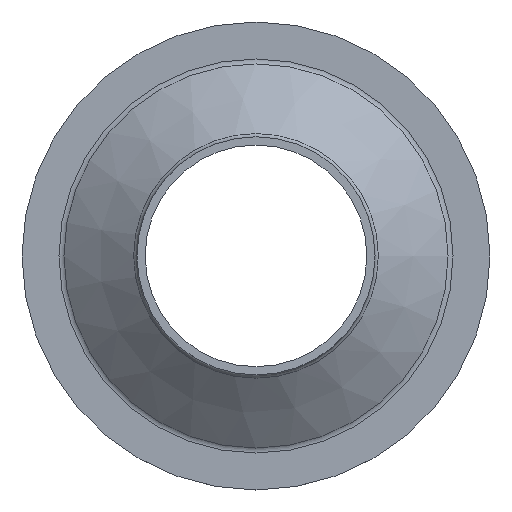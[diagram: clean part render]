
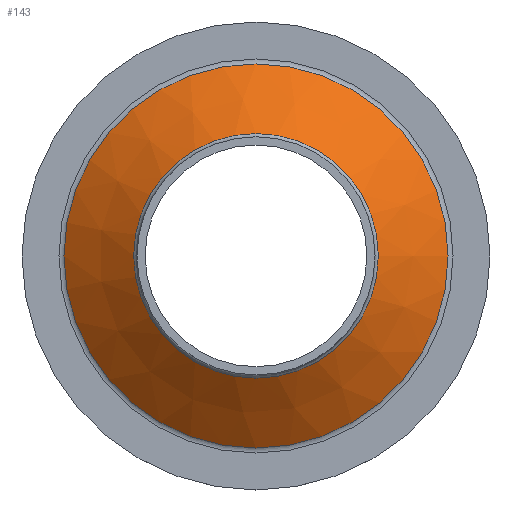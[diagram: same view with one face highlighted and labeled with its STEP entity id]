
A CAD part, top view. The second image highlights one B-rep face of the part: STEP entity #143.
In plain terms, the highlighted conical face has half-angle 52.595 degrees and reference radius 14.893 mm.
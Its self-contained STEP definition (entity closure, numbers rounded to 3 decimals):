
#98=CARTESIAN_POINT('',(23.393,0.,1.206));
#99=VERTEX_POINT('',#98);
#107=CARTESIAN_POINT('',(0.,0.,1.206));
#108=DIRECTION('',(1.,0.,0.));
#109=DIRECTION('',(0.,0.,1.));
#110=AXIS2_PLACEMENT_3D('',#107,#109,#108);
#111=CIRCLE('',#110,23.393);
#112=EDGE_CURVE('',#99,#99,#111,.T.);
#119=CARTESIAN_POINT('',(0.,0.,7.706));
#120=DIRECTION('',(1.,0.,0.));
#121=DIRECTION('',(-0.,-0.,-1.));
#122=AXIS2_PLACEMENT_3D('',#119,#121,#120);
#123=CONICAL_SURFACE('',#122,14.893,0.918);
#124=CARTESIAN_POINT('',(14.893,0.,7.706));
#125=VERTEX_POINT('',#124);
#126=CARTESIAN_POINT('',(23.393,0.,1.206));
#127=DIRECTION('',(-0.794,0.,0.607));
#128=VECTOR('',#127,10.7);
#129=LINE('',#126,#128);
#130=EDGE_CURVE('',#99,#125,#129,.T.);
#131=ORIENTED_EDGE('E3',*,*,#130,.T.);
#132=CARTESIAN_POINT('',(0.,0.,7.706));
#133=DIRECTION('',(1.,0.,-0.));
#134=DIRECTION('',(0.,0.,1.));
#135=AXIS2_PLACEMENT_3D('',#132,#134,#133);
#136=CIRCLE('',#135,14.893);
#137=EDGE_CURVE('',#125,#125,#136,.T.);
#138=ORIENTED_EDGE('E12',*,*,#137,.T.);
#139=ORIENTED_EDGE('E12',*,*,#130,.F.);
#140=ORIENTED_EDGE('E12',*,*,#112,.F.);
#141=EDGE_LOOP('',(#131,#138,#139,#140));
#142=FACE_OUTER_BOUND('',#141,.F.);
#143=ADVANCED_FACE('F5',(#142),#123,.T.);
